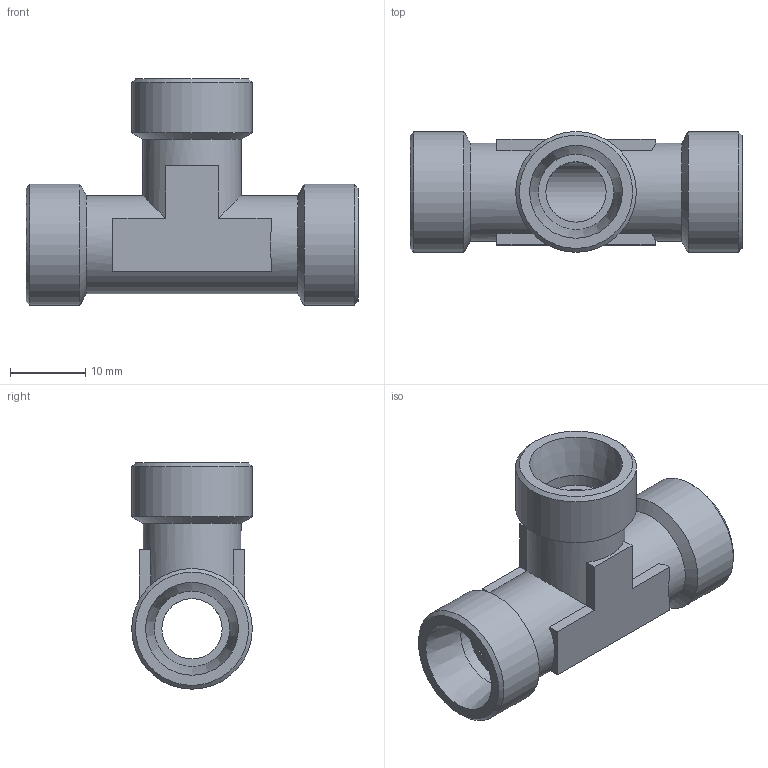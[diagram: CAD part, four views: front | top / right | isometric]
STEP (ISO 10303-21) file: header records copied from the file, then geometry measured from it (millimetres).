
FILE_DESCRIPTION( ( 'Unknown' ), '1' );
FILE_NAME( 'C:/Users/p.nanko/Desktop/3D SR/XT10L.stp', 'Unknown', ( 'Peter Nanko' ), ( 'Armaturen Arndt' ), 'PSStep 14.0', 'Solid Edge ST4', ' ' );
FILE_SCHEMA( ( 'AUTOMOTIVE_DESIGN { 1 0 10303 214 1 1 1 1 }' ) );
Length unit declared in the file: millimetre
Products named in the file (1): 1
Bounding box: 44 x 16 x 30 mm (x, y, z)
Volume: 5815.8 mm3; surface area: 4880.3 mm2
Topology: 1 solids, 1 shells, 47 faces, 114 edges, 71 vertices
Faces by surface type: plane 26, cone 11, cylinder 10
Full cylindrical faces by diameter (mm): 8 x2, 10 x3, 13 x2, 16 x3
Entity records: 1626 total; most frequent: CARTESIAN_POINT 224, DIRECTION 216, ORIENTED_EDGE 176, EDGE_CURVE 88, AXIS2_PLACEMENT_3D 86, EDGE_LOOP 74, VERTEX_POINT 66, FACE_OUTER_BOUND 57
